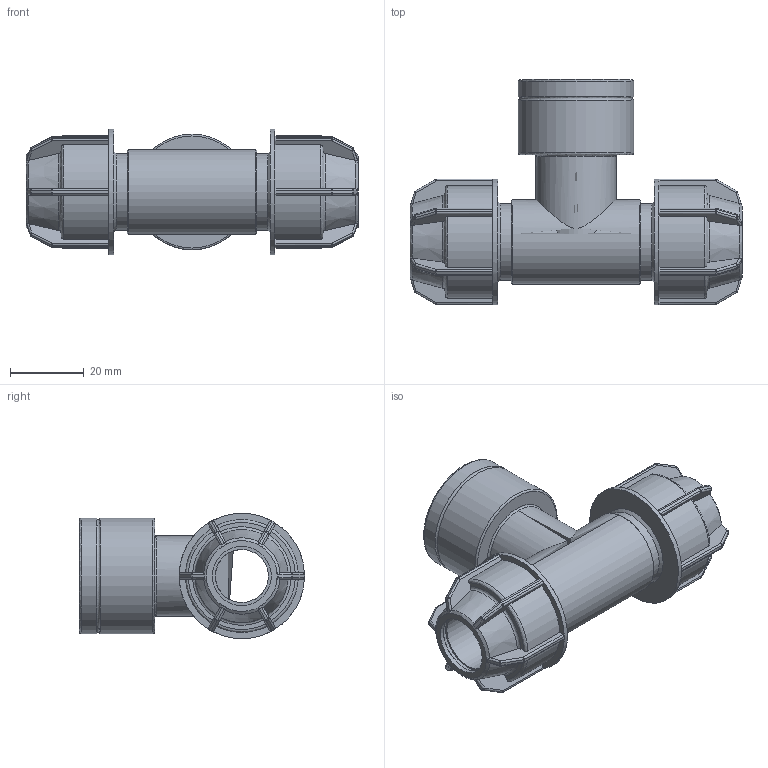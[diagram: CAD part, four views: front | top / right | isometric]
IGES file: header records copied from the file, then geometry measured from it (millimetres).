
Global section: file name: 041407016007.ipt; native system: Autodesk Inventor 2015; preprocessor: unknown; author: KIM; date: 20180409.130647; units: millimetre
Bounding box: 90 x 61 x 34 mm (x, y, z)
Volume: 38983.9 mm3; surface area: 20909.7 mm2
Topology: 1 solids, 1 shells, 419 faces, 1023 edges, 599 vertices
Faces by surface type: plane 200, cylinder 116, sphere 48, revolution 39, cone 16
Full cylindrical faces by diameter (mm): 20.8 x2, 21.705 x1, 22.88 x1, 31.352 x2, 34 x2
